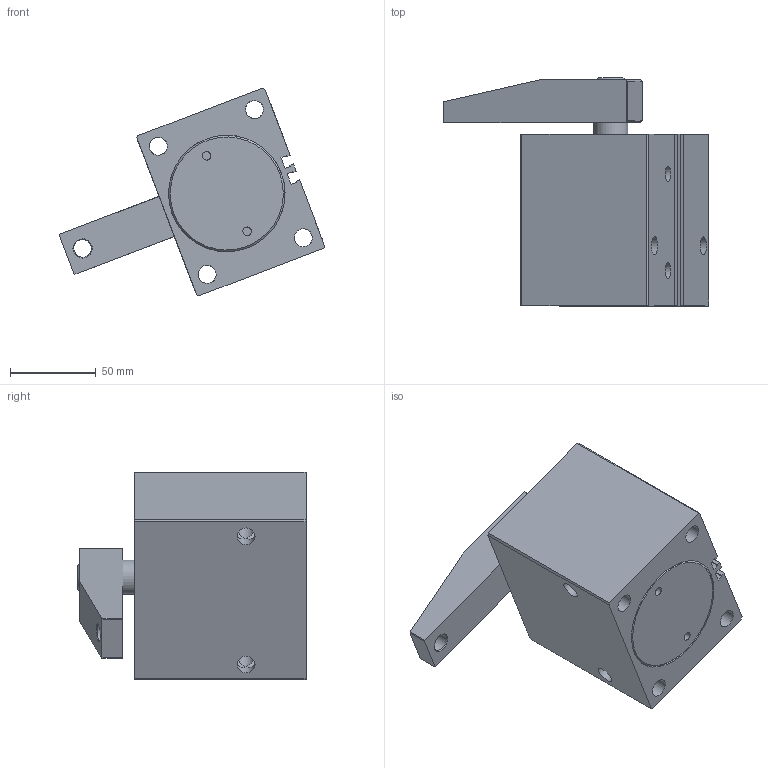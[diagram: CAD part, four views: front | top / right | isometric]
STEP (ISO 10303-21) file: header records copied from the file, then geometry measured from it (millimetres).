
FILE_DESCRIPTION(/* description */ ('STEP AP203'),/* implementation_level */ '2;1');
FILE_NAME(/* name */ 'E:\SERWER_ZAPAS\Pneumatic\PSB PNEUMATIC SWING\PSB-63\PSB-63R_ZAMKNIETY.stp',/* time_stamp */ '2019-02-05T13:18:30+01:00',/* author */ ('Admin'),/* organization */ ('Î¢ÈíÖÐ¹ú'),/* preprocessor_version */ 'ST-DEVELOPER v17.2',/* originating_system */ 'Autodesk Inventor 2019',/* authorisation */ '');
FILE_SCHEMA (('AUTOMOTIVE_DESIGN { 1 0 10303 214 3 1 1 }'));
Length unit declared in the file: millimetre
Products named in the file (11): PSB-63R_ZAMKNIETY; PSB-L63-90-15-15-01; PSB-L63-90-15-15-04; PSB-L63-90-15-15-02; PSB-L63-90-15-15-05; hexagon socket head cap screws gb_GB_FASTENER_SCREWS_HSHCS M10X20-N; s¸Ë2; ¸ÖÖé4; PSB-L63-90-15-15-03; 4x40; hex socket set screws with flat point gb_GB_FASTENER_SCREWS_HSFP M5X8
-N
Assembly tree (14 placements, depth 2):
  PSB-63R_ZAMKNIETY
    PSB-L63-90-15-15-01
    ¸ÖÖé4  x3
    hex socket set screws with flat point gb_GB_FASTENER_SCREWS_HSFP M5X8
-N  x3
    PSB-L63-90-15-15-04
    PSB-L63-90-15-15-02
    PSB-L63-90-15-15-05
    hexagon socket head cap screws gb_GB_FASTENER_SCREWS_HSHCS M10X20-N
    s¸Ë2
    PSB-L63-90-15-15-03
    4x40
Bounding box: 154.88 x 133 x 121.21 mm (x, y, z)
Volume: 690074.4 mm3; surface area: 149373.2 mm2
Topology: 14 solids, 14 shells, 323 faces, 923 edges, 644 vertices
Faces by surface type: plane 145, cylinder 82, torus 32, cone 29, bspline 26, sphere 9
Full cylindrical faces by diameter (mm): 1.5 x2, 4 x10, 5 x5, 7.9 x2, 8.5 x1, 10 x1, 10.2 x1, 10.5 x14, 11 x1, 11.982 x2, 12 x2, 15.982 x1, 16 x1, 16.5 x4, 17 x1, 18 x1, 18.5 x1, 20 x2, 20.1 x2, 21 x3, 24.3 x1, 25.2 x1, 28 x2, 42 x1, 53 x1, 58.282 x1, 59 x1, 62.882 x2, 63 x5, 67.982 x1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
Entity records: 17071 total; most frequent: CARTESIAN_POINT 8835, DIRECTION 1710, ORIENTED_EDGE 1636, EDGE_CURVE 818, AXIS2_PLACEMENT_3D 722, VERTEX_POINT 582, CIRCLE 411, EDGE_LOOP 364
